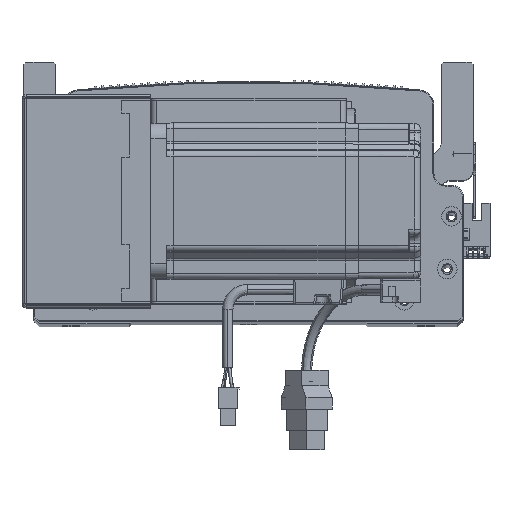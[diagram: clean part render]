
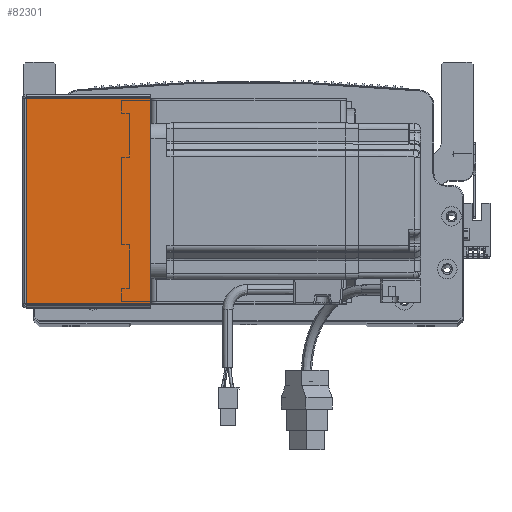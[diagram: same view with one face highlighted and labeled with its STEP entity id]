
A CAD part, top view. The second image highlights one B-rep face of the part: STEP entity #82301.
In plain terms, the highlighted planar face has unit normal (0, 0, 1) as drawn and (0, 0, -1) by its records, which use the part's own axes.
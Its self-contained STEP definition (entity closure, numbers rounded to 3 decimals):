
#7629 = LINE ( 'NONE', #59187, #16747 ) ;
#9921 = LINE ( 'NONE', #38816, #79064 ) ;
#11085 = ORIENTED_EDGE ( 'NONE', *, *, #20553, .F. ) ;
#15141 = CARTESIAN_POINT ( 'NONE',  ( 0.737, 0., -205.5 ) ) ;
#16747 = VECTOR ( 'NONE', #35298, 1000. ) ;
#17025 = VECTOR ( 'NONE', #61421, 1000. ) ;
#19232 = DIRECTION ( 'NONE',  ( 1., 0., 0. ) ) ;
#19952 = LINE ( 'NONE', #49575, #59572 ) ;
#20553 = EDGE_CURVE ( 'NONE', #28807, #69176, #34307, .T. ) ;
#28555 = DIRECTION ( 'NONE',  ( 1., 0., 0. ) ) ;
#28807 = VERTEX_POINT ( 'NONE', #44034 ) ;
#30165 = FACE_OUTER_BOUND ( 'NONE', #53091, .T. ) ;
#30441 = EDGE_CURVE ( 'NONE', #69176, #81961, #9921, .T. ) ;
#31671 = CARTESIAN_POINT ( 'NONE',  ( 0.737, 0.707, -205.5 ) ) ;
#34307 = LINE ( 'NONE', #15141, #17025 ) ;
#35298 = DIRECTION ( 'NONE',  ( 0., -1., 0. ) ) ;
#35643 = PLANE ( 'NONE',  #71233 ) ;
#37943 = ORIENTED_EDGE ( 'NONE', *, *, #53976, .T. ) ;
#38678 = VERTEX_POINT ( 'NONE', #76958 ) ;
#38816 = CARTESIAN_POINT ( 'NONE',  ( 0., 0.707, -205.5 ) ) ;
#41329 = CARTESIAN_POINT ( 'NONE',  ( 0., 0., -205.5 ) ) ;
#42144 = DIRECTION ( 'NONE',  ( 0., 0., 1. ) ) ;
#43932 = CARTESIAN_POINT ( 'NONE',  ( 64.5, 0.707, -205.5 ) ) ;
#43969 = ORIENTED_EDGE ( 'NONE', *, *, #30441, .F. ) ;
#44034 = CARTESIAN_POINT ( 'NONE',  ( 0.737, 105.293, -205.5 ) ) ;
#49575 = CARTESIAN_POINT ( 'NONE',  ( 0., 105.293, -205.5 ) ) ;
#53091 = EDGE_LOOP ( 'NONE', ( #11085, #37943, #83451, #43969 ) ) ;
#53976 = EDGE_CURVE ( 'NONE', #28807, #38678, #19952, .T. ) ;
#58996 = EDGE_CURVE ( 'NONE', #38678, #81961, #7629, .T. ) ;
#59187 = CARTESIAN_POINT ( 'NONE',  ( 64.5, 0., -205.5 ) ) ;
#59572 = VECTOR ( 'NONE', #81796, 1000. ) ;
#61421 = DIRECTION ( 'NONE',  ( 0., -1., 0. ) ) ;
#69176 = VERTEX_POINT ( 'NONE', #31671 ) ;
#71233 = AXIS2_PLACEMENT_3D ( 'NONE', #41329, #42144, #28555 ) ;
#76958 = CARTESIAN_POINT ( 'NONE',  ( 64.5, 105.293, -205.5 ) ) ;
#79064 = VECTOR ( 'NONE', #19232, 1000. ) ;
#81796 = DIRECTION ( 'NONE',  ( 1., 0., 0. ) ) ;
#81961 = VERTEX_POINT ( 'NONE', #43932 ) ;
#82301 = ADVANCED_FACE ( 'NONE', ( #30165 ), #35643, .F. ) ;
#83451 = ORIENTED_EDGE ( 'NONE', *, *, #58996, .T. ) ;
